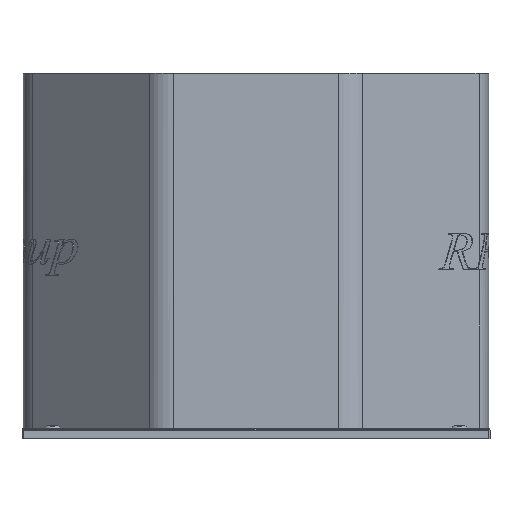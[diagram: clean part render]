
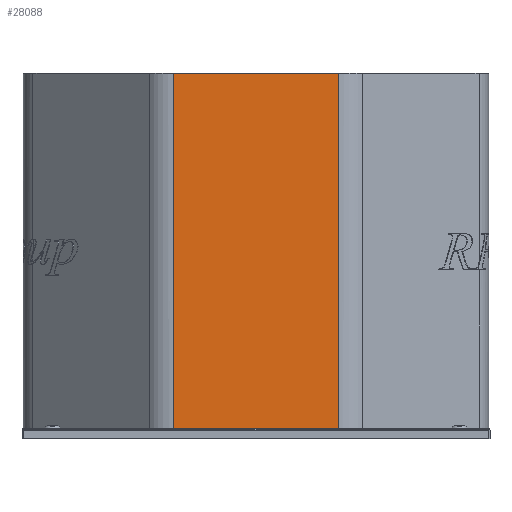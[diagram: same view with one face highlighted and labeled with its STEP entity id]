
A CAD part, front view. The second image highlights one B-rep face of the part: STEP entity #28088.
In plain terms, the highlighted planar face has unit normal (0, -1, 0).
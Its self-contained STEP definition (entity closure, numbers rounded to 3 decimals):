
#980=PLANE('',#29968);
#2169=FACE_OUTER_BOUND('',#3810,.T.);
#3810=EDGE_LOOP('',(#22575,#22576,#22577,#22578));
#5634=LINE('',#47234,#8122);
#6031=LINE('',#48896,#8519);
#6032=LINE('',#48899,#8520);
#6033=LINE('',#48900,#8521);
#8122=VECTOR('',#33315,10.);
#8519=VECTOR('',#34740,10.);
#8520=VECTOR('',#34743,10.);
#8521=VECTOR('',#34744,10.);
#12536=VERTEX_POINT('',#47231);
#12537=VERTEX_POINT('',#47233);
#13252=VERTEX_POINT('',#48894);
#13253=VERTEX_POINT('',#48898);
#15897=EDGE_CURVE('',#12536,#12537,#5634,.T.);
#16677=EDGE_CURVE('',#13252,#12536,#6031,.T.);
#16678=EDGE_CURVE('',#13252,#13253,#6032,.T.);
#16679=EDGE_CURVE('',#13253,#12537,#6033,.T.);
#22575=ORIENTED_EDGE('',*,*,#15897,.F.);
#22576=ORIENTED_EDGE('',*,*,#16677,.F.);
#22577=ORIENTED_EDGE('',*,*,#16678,.T.);
#22578=ORIENTED_EDGE('',*,*,#16679,.T.);
#28088=ADVANCED_FACE('',(#2169),#980,.T.);
#29968=AXIS2_PLACEMENT_3D('',#48897,#34741,#34742);
#33315=DIRECTION('',(-1.,0.,0.));
#34740=DIRECTION('',(0.,0.,-1.));
#34741=DIRECTION('center_axis',(0.,-1.,
0.));
#34742=DIRECTION('ref_axis',(-1.,0.,0.));
#34743=DIRECTION('',(-1.,0.,0.));
#34744=DIRECTION('',(0.,0.,-1.));
#47231=CARTESIAN_POINT('',(135.022,-633.131,-57.995));
#47233=CARTESIAN_POINT('',(-270.809,-633.132,-57.995));
#47234=CARTESIAN_POINT('',(33.564,-633.131,-57.995));
#48894=CARTESIAN_POINT('',(135.022,-633.131,815.005));
#48896=CARTESIAN_POINT('',(135.022,-633.131,815.005));
#48897=CARTESIAN_POINT('Origin',(135.022,-633.131,815.005));
#48898=CARTESIAN_POINT('',(-270.809,-633.132,815.005));
#48899=CARTESIAN_POINT('',(135.022,-633.131,815.005));
#48900=CARTESIAN_POINT('',(-270.809,-633.132,815.005));
